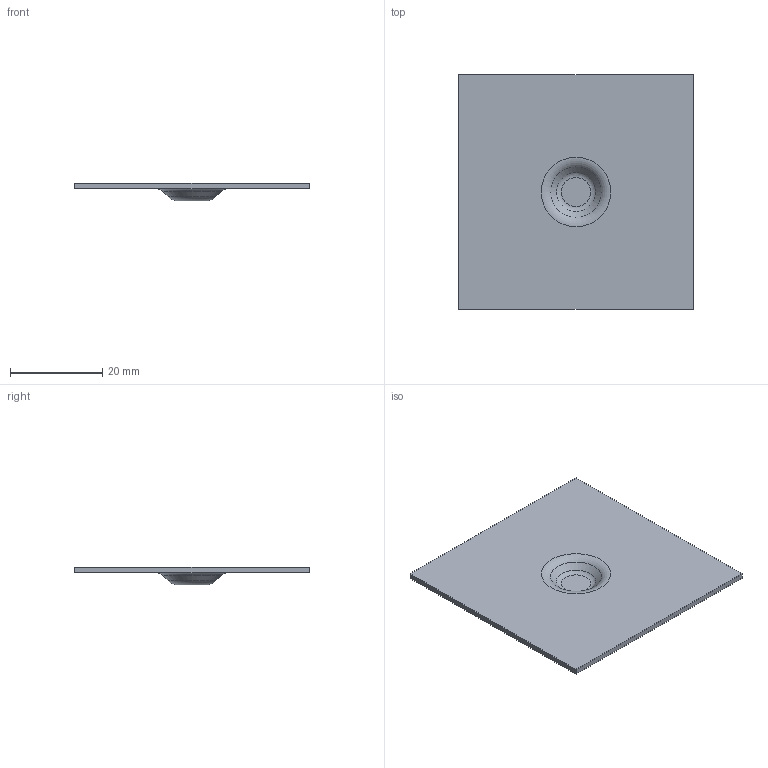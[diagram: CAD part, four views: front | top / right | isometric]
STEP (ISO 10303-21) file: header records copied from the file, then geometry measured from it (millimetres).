
FILE_DESCRIPTION((''),'1');
FILE_NAME('C:/Users/robertnolte/Desktop/WT#206-3628.stp','2012-03-29T18:59:00',(''),(''),'Spatial Interop R21 SP3','Kubotek KeyCreator 2011 V10.5.0 (24766)',' ');
FILE_SCHEMA(('CONFIG_CONTROL_DESIGN'));
Length unit declared in the file: inch
Products named in the file (1): 1
Bounding box: 50.8 x 50.8 x 3.76 mm (x, y, z)
Volume: 3181.6 mm3; surface area: 5466.8 mm2
Topology: 1 solids, 1 shells, 14 faces, 26 edges, 16 vertices
Faces by surface type: plane 8, torus 4, cone 2
Entity records: 360 total; most frequent: DIRECTION 58, CARTESIAN_POINT 51, ORIENTED_EDGE 40, AXIS2_PLACEMENT_3D 23, EDGE_LOOP 22, EDGE_CURVE 20, VERTEX_POINT 16, ADVANCED_FACE 14
